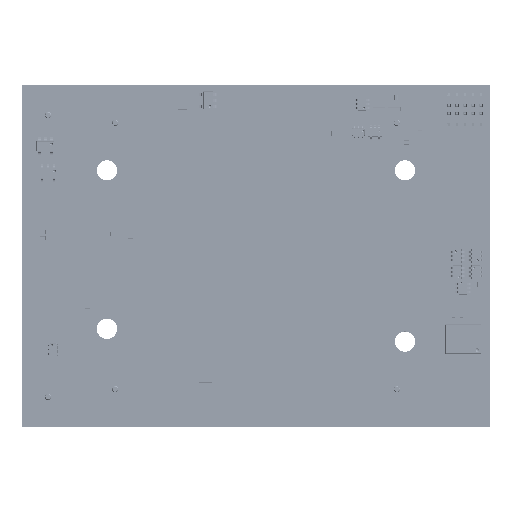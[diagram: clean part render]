
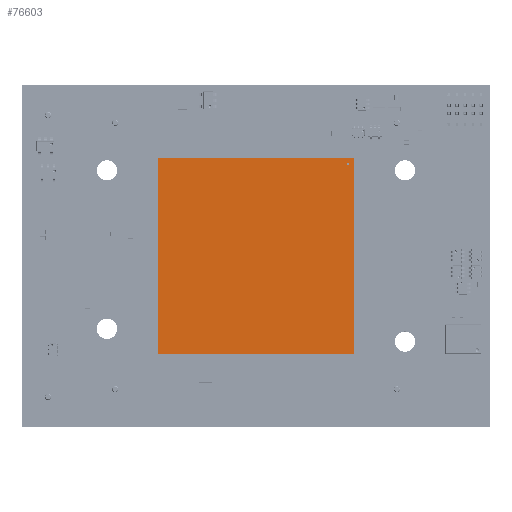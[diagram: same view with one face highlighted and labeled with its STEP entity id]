
A CAD part, top view. The second image highlights one B-rep face of the part: STEP entity #76603.
In plain terms, the highlighted planar face has unit normal (0, 0, 1).
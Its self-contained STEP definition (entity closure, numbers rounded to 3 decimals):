
#76212 = VERTEX_POINT('',#76213);
#76213 = CARTESIAN_POINT('',(15.5,15.5,2.));
#76220 = PLANE('',#76221);
#76221 = AXIS2_PLACEMENT_3D('',#76222,#76223,#76224);
#76222 = CARTESIAN_POINT('',(15.5,15.5,0.));
#76223 = DIRECTION('',(0.,-1.,0.));
#76224 = DIRECTION('',(-1.,0.,0.));
#76232 = PLANE('',#76233);
#76233 = AXIS2_PLACEMENT_3D('',#76234,#76235,#76236);
#76234 = CARTESIAN_POINT('',(15.4,-15.4,0.));
#76235 = DIRECTION('',(-1.,0.003,0.));
#76236 = DIRECTION('',(0.003,1.,0.));
#76244 = EDGE_CURVE('',#76212,#76245,#76247,.T.);
#76245 = VERTEX_POINT('',#76246);
#76246 = CARTESIAN_POINT('',(-15.5,15.5,2.));
#76247 = SURFACE_CURVE('',#76248,(#76252,#76259),.PCURVE_S1.);
#76248 = LINE('',#76249,#76250);
#76249 = CARTESIAN_POINT('',(15.5,15.5,2.));
#76250 = VECTOR('',#76251,1.);
#76251 = DIRECTION('',(-1.,0.,0.));
#76252 = PCURVE('',#76220,#76253);
#76253 = DEFINITIONAL_REPRESENTATION('',(#76254),#76258);
#76254 = LINE('',#76255,#76256);
#76255 = CARTESIAN_POINT('',(0.,-2.));
#76256 = VECTOR('',#76257,1.);
#76257 = DIRECTION('',(1.,0.));
#76258 = ( GEOMETRIC_REPRESENTATION_CONTEXT(2) 
PARAMETRIC_REPRESENTATION_CONTEXT() REPRESENTATION_CONTEXT('2D SPACE',''
  ) );
#76259 = PCURVE('',#76260,#76265);
#76260 = PLANE('',#76261);
#76261 = AXIS2_PLACEMENT_3D('',#76262,#76263,#76264);
#76262 = CARTESIAN_POINT('',(15.5,15.5,2.));
#76263 = DIRECTION('',(0.,0.,-1.));
#76264 = DIRECTION('',(-1.,0.,0.));
#76265 = DEFINITIONAL_REPRESENTATION('',(#76266),#76270);
#76266 = LINE('',#76267,#76268);
#76267 = CARTESIAN_POINT('',(0.,0.));
#76268 = VECTOR('',#76269,1.);
#76269 = DIRECTION('',(1.,0.));
#76270 = ( GEOMETRIC_REPRESENTATION_CONTEXT(2) 
PARAMETRIC_REPRESENTATION_CONTEXT() REPRESENTATION_CONTEXT('2D SPACE',''
  ) );
#76288 = PLANE('',#76289);
#76289 = AXIS2_PLACEMENT_3D('',#76290,#76291,#76292);
#76290 = CARTESIAN_POINT('',(-15.5,15.5,0.));
#76291 = DIRECTION('',(1.,0.,0.));
#76292 = DIRECTION('',(0.,-1.,0.));
#76330 = EDGE_CURVE('',#76245,#76331,#76333,.T.);
#76331 = VERTEX_POINT('',#76332);
#76332 = CARTESIAN_POINT('',(-15.5,-15.5,2.));
#76333 = SURFACE_CURVE('',#76334,(#76338,#76345),.PCURVE_S1.);
#76334 = LINE('',#76335,#76336);
#76335 = CARTESIAN_POINT('',(-15.5,15.5,2.));
#76336 = VECTOR('',#76337,1.);
#76337 = DIRECTION('',(0.,-1.,0.));
#76338 = PCURVE('',#76288,#76339);
#76339 = DEFINITIONAL_REPRESENTATION('',(#76340),#76344);
#76340 = LINE('',#76341,#76342);
#76341 = CARTESIAN_POINT('',(0.,-2.));
#76342 = VECTOR('',#76343,1.);
#76343 = DIRECTION('',(1.,0.));
#76344 = ( GEOMETRIC_REPRESENTATION_CONTEXT(2) 
PARAMETRIC_REPRESENTATION_CONTEXT() REPRESENTATION_CONTEXT('2D SPACE',''
  ) );
#76345 = PCURVE('',#76260,#76346);
#76346 = DEFINITIONAL_REPRESENTATION('',(#76347),#76351);
#76347 = LINE('',#76348,#76349);
#76348 = CARTESIAN_POINT('',(31.,0.));
#76349 = VECTOR('',#76350,1.);
#76350 = DIRECTION('',(0.,-1.));
#76351 = ( GEOMETRIC_REPRESENTATION_CONTEXT(2) 
PARAMETRIC_REPRESENTATION_CONTEXT() REPRESENTATION_CONTEXT('2D SPACE',''
  ) );
#76369 = PLANE('',#76370);
#76370 = AXIS2_PLACEMENT_3D('',#76371,#76372,#76373);
#76371 = CARTESIAN_POINT('',(-15.5,-15.5,0.));
#76372 = DIRECTION('',(0.,1.,0.));
#76373 = DIRECTION('',(1.,0.,0.));
#76406 = EDGE_CURVE('',#76331,#76407,#76409,.T.);
#76407 = VERTEX_POINT('',#76408);
#76408 = CARTESIAN_POINT('',(15.5,-15.5,2.));
#76409 = SURFACE_CURVE('',#76410,(#76414,#76421),.PCURVE_S1.);
#76410 = LINE('',#76411,#76412);
#76411 = CARTESIAN_POINT('',(-15.5,-15.5,2.));
#76412 = VECTOR('',#76413,1.);
#76413 = DIRECTION('',(1.,0.,0.));
#76414 = PCURVE('',#76369,#76415);
#76415 = DEFINITIONAL_REPRESENTATION('',(#76416),#76420);
#76416 = LINE('',#76417,#76418);
#76417 = CARTESIAN_POINT('',(0.,-2.));
#76418 = VECTOR('',#76419,1.);
#76419 = DIRECTION('',(1.,0.));
#76420 = ( GEOMETRIC_REPRESENTATION_CONTEXT(2) 
PARAMETRIC_REPRESENTATION_CONTEXT() REPRESENTATION_CONTEXT('2D SPACE',''
  ) );
#76421 = PCURVE('',#76260,#76422);
#76422 = DEFINITIONAL_REPRESENTATION('',(#76423),#76427);
#76423 = LINE('',#76424,#76425);
#76424 = CARTESIAN_POINT('',(31.,-31.));
#76425 = VECTOR('',#76426,1.);
#76426 = DIRECTION('',(-1.,0.));
#76427 = ( GEOMETRIC_REPRESENTATION_CONTEXT(2) 
PARAMETRIC_REPRESENTATION_CONTEXT() REPRESENTATION_CONTEXT('2D SPACE',''
  ) );
#76445 = PLANE('',#76446);
#76446 = AXIS2_PLACEMENT_3D('',#76447,#76448,#76449);
#76447 = CARTESIAN_POINT('',(15.5,-15.5,0.));
#76448 = DIRECTION('',(-0.707,-0.707,0.));
#76449 = DIRECTION('',(-0.707,0.707,0.));
#76482 = EDGE_CURVE('',#76407,#76483,#76485,.T.);
#76483 = VERTEX_POINT('',#76484);
#76484 = CARTESIAN_POINT('',(15.4,-15.4,2.));
#76485 = SURFACE_CURVE('',#76486,(#76490,#76497),.PCURVE_S1.);
#76486 = LINE('',#76487,#76488);
#76487 = CARTESIAN_POINT('',(15.5,-15.5,2.));
#76488 = VECTOR('',#76489,1.);
#76489 = DIRECTION('',(-0.707,0.707,0.));
#76490 = PCURVE('',#76445,#76491);
#76491 = DEFINITIONAL_REPRESENTATION('',(#76492),#76496);
#76492 = LINE('',#76493,#76494);
#76493 = CARTESIAN_POINT('',(0.,-2.));
#76494 = VECTOR('',#76495,1.);
#76495 = DIRECTION('',(1.,0.));
#76496 = ( GEOMETRIC_REPRESENTATION_CONTEXT(2) 
PARAMETRIC_REPRESENTATION_CONTEXT() REPRESENTATION_CONTEXT('2D SPACE',''
  ) );
#76497 = PCURVE('',#76260,#76498);
#76498 = DEFINITIONAL_REPRESENTATION('',(#76499),#76503);
#76499 = LINE('',#76500,#76501);
#76500 = CARTESIAN_POINT('',(0.,-31.));
#76501 = VECTOR('',#76502,1.);
#76502 = DIRECTION('',(0.707,0.707));
#76503 = ( GEOMETRIC_REPRESENTATION_CONTEXT(2) 
PARAMETRIC_REPRESENTATION_CONTEXT() REPRESENTATION_CONTEXT('2D SPACE',''
  ) );
#76553 = EDGE_CURVE('',#76483,#76212,#76554,.T.);
#76554 = SURFACE_CURVE('',#76555,(#76559,#76566),.PCURVE_S1.);
#76555 = LINE('',#76556,#76557);
#76556 = CARTESIAN_POINT('',(15.4,-15.4,2.));
#76557 = VECTOR('',#76558,1.);
#76558 = DIRECTION('',(0.003,1.,0.));
#76559 = PCURVE('',#76232,#76560);
#76560 = DEFINITIONAL_REPRESENTATION('',(#76561),#76565);
#76561 = LINE('',#76562,#76563);
#76562 = CARTESIAN_POINT('',(0.,-2.));
#76563 = VECTOR('',#76564,1.);
#76564 = DIRECTION('',(1.,0.));
#76565 = ( GEOMETRIC_REPRESENTATION_CONTEXT(2) 
PARAMETRIC_REPRESENTATION_CONTEXT() REPRESENTATION_CONTEXT('2D SPACE',''
  ) );
#76566 = PCURVE('',#76260,#76567);
#76567 = DEFINITIONAL_REPRESENTATION('',(#76568),#76572);
#76568 = LINE('',#76569,#76570);
#76569 = CARTESIAN_POINT('',(0.1,-30.9));
#76570 = VECTOR('',#76571,1.);
#76571 = DIRECTION('',(-0.003,1.));
#76572 = ( GEOMETRIC_REPRESENTATION_CONTEXT(2) 
PARAMETRIC_REPRESENTATION_CONTEXT() REPRESENTATION_CONTEXT('2D SPACE',''
  ) );
#76603 = ADVANCED_FACE('',(#76604),#76260,.F.);
#76604 = FACE_BOUND('',#76605,.T.);
#76605 = EDGE_LOOP('',(#76606,#76607,#76608,#76609,#76610));
#76606 = ORIENTED_EDGE('',*,*,#76244,.T.);
#76607 = ORIENTED_EDGE('',*,*,#76330,.T.);
#76608 = ORIENTED_EDGE('',*,*,#76406,.T.);
#76609 = ORIENTED_EDGE('',*,*,#76482,.T.);
#76610 = ORIENTED_EDGE('',*,*,#76553,.T.);
